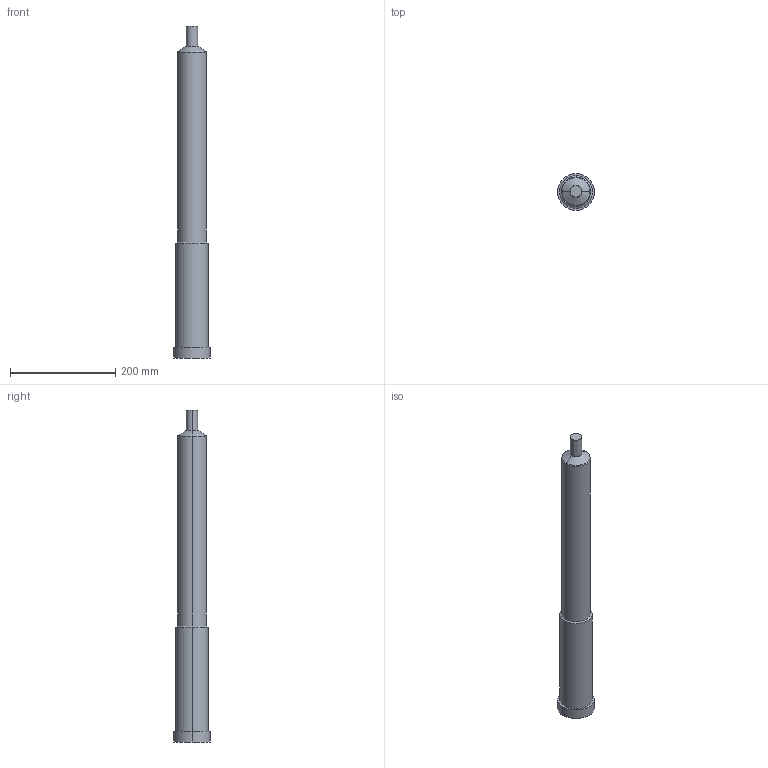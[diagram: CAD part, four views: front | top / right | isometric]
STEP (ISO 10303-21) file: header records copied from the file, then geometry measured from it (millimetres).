
FILE_DESCRIPTION (( 'STEP AP214' ), '1' );
FILE_NAME ('22E-06-600-##P.STEP', '2022-01-10T08:51:09', ( '' ), ( '' ), 'SwSTEP 2.0', 'SolidWorks 2018', '' );
FILE_SCHEMA (( 'AUTOMOTIVE_DESIGN' ));
Length unit declared in the file: millimetre
Products named in the file (2): cutout_22E-06-600-##P; 22E-06-600-##P
Assembly tree (1 placements, depth 2):
  22E-06-600-##P
    cutout_22E-06-600-##P
Bounding box: 70 x 70 x 630 mm (x, y, z)
Volume: 1566099.9 mm3; surface area: 116179.9 mm2
Topology: 1 solids, 1 shells, 19 faces, 36 edges, 20 vertices
Faces by surface type: cylinder 8, cone 6, plane 3, torus 2
Entity records: 542 total; most frequent: DIRECTION 104, CARTESIAN_POINT 79, ORIENTED_EDGE 72, AXIS2_PLACEMENT_3D 45, EDGE_CURVE 36, CIRCLE 22, VERTEX_POINT 20, EDGE_LOOP 20
